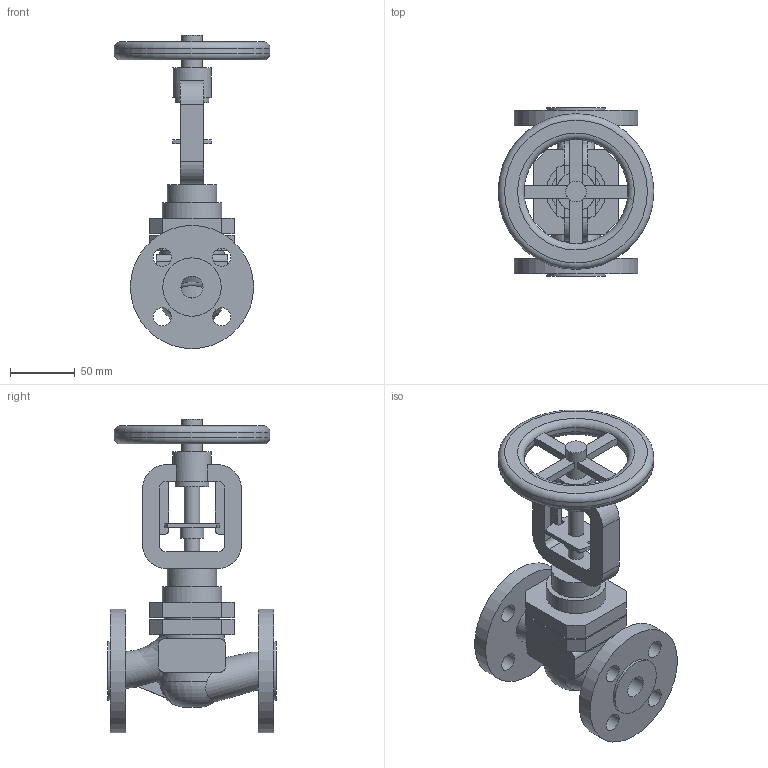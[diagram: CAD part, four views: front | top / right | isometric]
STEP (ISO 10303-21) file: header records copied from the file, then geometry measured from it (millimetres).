
FILE_DESCRIPTION(('STEP AP203'), '1');
FILE_NAME('Êëàïàí çàïîðíî-ðåãóëèðóþùèé BV2F DN15', '2026-09-22T07:51:45', ('Ýíåðãèÿ'), (''), 'ASCON STEP Converter 1.6', 'ASCON Math Kernel', '');
FILE_SCHEMA(('CONFIG_CONTROL_DESIGN'));
Length unit declared in the file: millimetre
Bounding box: 120 x 130 x 241.5 mm (x, y, z)
Volume: 613254.7 mm3; surface area: 122795.9 mm2
Topology: 1 solids, 1 shells, 192 faces, 514 edges, 339 vertices
Faces by surface type: plane 109, cylinder 65, bspline 12, torus 6
Full cylindrical faces by diameter (mm): 12 x2, 14 x8, 16 x1, 17 x1, 18 x1, 26 x1, 30 x1, 38 x1, 43 x1, 45 x2, 46 x1, 95 x2, 120 x1
Entity records: 20543 total; most frequent: CARTESIAN_POINT 14296, ORIENTED_EDGE 964, DIRECTION 909, EDGE_CURVE 482, VERTEX_POINT 339, AXIS2_PLACEMENT_3D 336, EDGE_LOOP 267, LINE 237
